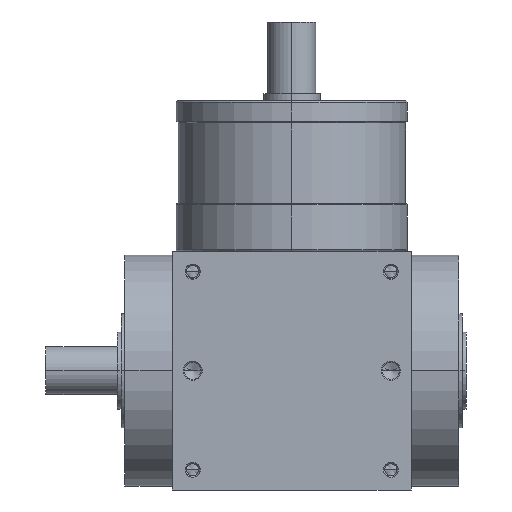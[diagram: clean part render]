
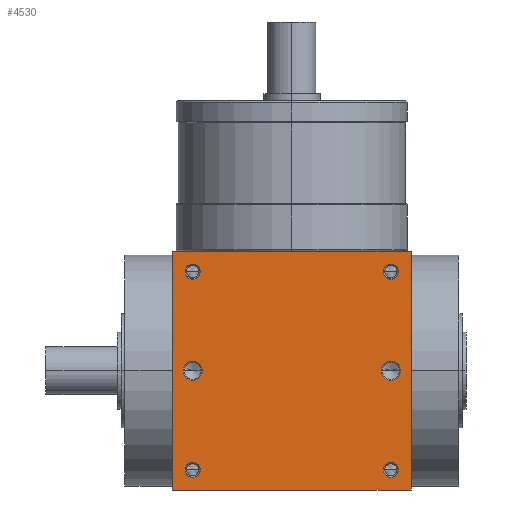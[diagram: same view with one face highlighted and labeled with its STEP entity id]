
A CAD part, front view. The second image highlights one B-rep face of the part: STEP entity #4530.
In plain terms, the highlighted planar face has unit normal (0, -1, 0).
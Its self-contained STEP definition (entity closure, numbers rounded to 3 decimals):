
#5=DIRECTION('',(1.,0.,0.));
#6=VECTOR('',#5,65.);
#7=CARTESIAN_POINT('',(-32.5,-32.5,-32.5));
#8=LINE('',#7,#6);
#155=DIRECTION('',(0.,0.,1.));
#156=VECTOR('',#155,65.);
#157=CARTESIAN_POINT('',(32.5,-32.5,-32.5));
#158=LINE('',#157,#156);
#209=DIRECTION('',(0.,0.,1.));
#210=VECTOR('',#209,65.);
#211=CARTESIAN_POINT('',(-32.5,-32.5,-32.5));
#212=LINE('',#211,#210);
#213=CARTESIAN_POINT('',(27.,-32.5,27.));
#214=DIRECTION('',(0.,1.,0.));
#215=DIRECTION('',(-1.,0.,0.));
#216=AXIS2_PLACEMENT_3D('',#213,#214,#215);
#218=CARTESIAN_POINT('',(27.,-32.5,27.));
#219=DIRECTION('',(0.,1.,0.));
#220=DIRECTION('',(1.,0.,0.));
#221=AXIS2_PLACEMENT_3D('',#218,#219,#220);
#223=CARTESIAN_POINT('',(-27.,-32.5,27.));
#224=DIRECTION('',(0.,1.,0.));
#225=DIRECTION('',(-1.,0.,0.));
#226=AXIS2_PLACEMENT_3D('',#223,#224,#225);
#228=CARTESIAN_POINT('',(-27.,-32.5,27.));
#229=DIRECTION('',(0.,1.,0.));
#230=DIRECTION('',(1.,0.,0.));
#231=AXIS2_PLACEMENT_3D('',#228,#229,#230);
#233=CARTESIAN_POINT('',(27.,-32.5,-27.));
#234=DIRECTION('',(0.,1.,0.));
#235=DIRECTION('',(-1.,0.,0.));
#236=AXIS2_PLACEMENT_3D('',#233,#234,#235);
#238=CARTESIAN_POINT('',(27.,-32.5,-27.));
#239=DIRECTION('',(0.,1.,0.));
#240=DIRECTION('',(1.,0.,0.));
#241=AXIS2_PLACEMENT_3D('',#238,#239,#240);
#243=CARTESIAN_POINT('',(-27.,-32.5,-27.));
#244=DIRECTION('',(0.,1.,0.));
#245=DIRECTION('',(-1.,0.,0.));
#246=AXIS2_PLACEMENT_3D('',#243,#244,#245);
#248=CARTESIAN_POINT('',(-27.,-32.5,-27.));
#249=DIRECTION('',(0.,1.,0.));
#250=DIRECTION('',(1.,0.,0.));
#251=AXIS2_PLACEMENT_3D('',#248,#249,#250);
#253=CARTESIAN_POINT('',(-27.,-32.5,0.));
#254=DIRECTION('',(0.,1.,0.));
#255=DIRECTION('',(1.,0.,0.));
#256=AXIS2_PLACEMENT_3D('',#253,#254,#255);
#258=CARTESIAN_POINT('',(-27.,-32.5,0.));
#259=DIRECTION('',(0.,1.,0.));
#260=DIRECTION('',(-1.,0.,0.));
#261=AXIS2_PLACEMENT_3D('',#258,#259,#260);
#263=CARTESIAN_POINT('',(27.,-32.5,0.));
#264=DIRECTION('',(0.,1.,0.));
#265=DIRECTION('',(1.,0.,0.));
#266=AXIS2_PLACEMENT_3D('',#263,#264,#265);
#268=CARTESIAN_POINT('',(27.,-32.5,0.));
#269=DIRECTION('',(0.,1.,0.));
#270=DIRECTION('',(-1.,0.,0.));
#271=AXIS2_PLACEMENT_3D('',#268,#269,#270);
#285=DIRECTION('',(1.,0.,0.));
#286=VECTOR('',#285,65.);
#287=CARTESIAN_POINT('',(-32.5,-32.5,32.5));
#288=LINE('',#287,#286);
#3614=CARTESIAN_POINT('',(-32.5,-32.5,-32.5));
#3616=VERTEX_POINT('',#3614);
#3617=CARTESIAN_POINT('',(32.5,-32.5,-32.5));
#3618=VERTEX_POINT('',#3617);
#3622=CARTESIAN_POINT('',(-32.5,-32.5,32.5));
#3624=VERTEX_POINT('',#3622);
#3625=CARTESIAN_POINT('',(32.5,-32.5,32.5));
#3626=VERTEX_POINT('',#3625);
#3793=CARTESIAN_POINT('',(24.95,-32.5,27.));
#3794=CARTESIAN_POINT('',(29.05,-32.5,27.));
#3795=VERTEX_POINT('',#3793);
#3796=VERTEX_POINT('',#3794);
#3801=CARTESIAN_POINT('',(-29.05,-32.5,27.));
#3802=CARTESIAN_POINT('',(-24.95,-32.5,27.));
#3803=VERTEX_POINT('',#3801);
#3804=VERTEX_POINT('',#3802);
#3809=CARTESIAN_POINT('',(24.95,-32.5,-27.));
#3810=CARTESIAN_POINT('',(29.05,-32.5,-27.));
#3811=VERTEX_POINT('',#3809);
#3812=VERTEX_POINT('',#3810);
#3817=CARTESIAN_POINT('',(-29.05,-32.5,-27.));
#3818=CARTESIAN_POINT('',(-24.95,-32.5,-27.));
#3819=VERTEX_POINT('',#3817);
#3820=VERTEX_POINT('',#3818);
#4159=CARTESIAN_POINT('',(-24.4,-32.5,0.));
#4160=CARTESIAN_POINT('',(-29.6,-32.5,0.));
#4161=VERTEX_POINT('',#4159);
#4162=VERTEX_POINT('',#4160);
#4167=CARTESIAN_POINT('',(29.6,-32.5,0.));
#4168=CARTESIAN_POINT('',(24.4,-32.5,0.));
#4169=VERTEX_POINT('',#4167);
#4170=VERTEX_POINT('',#4168);
#4482=CARTESIAN_POINT('',(-32.5,-32.5,-32.5));
#4483=DIRECTION('',(0.,-1.,0.));
#4484=DIRECTION('',(1.,0.,0.));
#4485=AXIS2_PLACEMENT_3D('',#4482,#4483,#4484);
#4486=PLANE('',#4485);
#4487=ORIENTED_EDGE('',*,*,#4322,.F.);
#4488=ORIENTED_EDGE('',*,*,#4365,.T.);
#4490=ORIENTED_EDGE('',*,*,#4489,.T.);
#4491=ORIENTED_EDGE('',*,*,#4444,.F.);
#4492=EDGE_LOOP('',(#4487,#4488,#4490,#4491));
#4493=FACE_OUTER_BOUND('',#4492,.F.);
#4495=ORIENTED_EDGE('',*,*,#4494,.F.);
#4497=ORIENTED_EDGE('',*,*,#4496,.F.);
#4498=EDGE_LOOP('',(#4495,#4497));
#4499=FACE_BOUND('',#4498,.F.);
#4501=ORIENTED_EDGE('',*,*,#4500,.F.);
#4503=ORIENTED_EDGE('',*,*,#4502,.F.);
#4504=EDGE_LOOP('',(#4501,#4503));
#4505=FACE_BOUND('',#4504,.F.);
#4507=ORIENTED_EDGE('',*,*,#4506,.F.);
#4509=ORIENTED_EDGE('',*,*,#4508,.F.);
#4510=EDGE_LOOP('',(#4507,#4509));
#4511=FACE_BOUND('',#4510,.F.);
#4513=ORIENTED_EDGE('',*,*,#4512,.F.);
#4515=ORIENTED_EDGE('',*,*,#4514,.F.);
#4516=EDGE_LOOP('',(#4513,#4515));
#4517=FACE_BOUND('',#4516,.F.);
#4519=ORIENTED_EDGE('',*,*,#4518,.F.);
#4521=ORIENTED_EDGE('',*,*,#4520,.F.);
#4522=EDGE_LOOP('',(#4519,#4521));
#4523=FACE_BOUND('',#4522,.F.);
#4525=ORIENTED_EDGE('',*,*,#4524,.F.);
#4527=ORIENTED_EDGE('',*,*,#4526,.F.);
#4528=EDGE_LOOP('',(#4525,#4527));
#4529=FACE_BOUND('',#4528,.F.);
#4530=ADVANCED_FACE('',(#4493,#4499,#4505,#4511,#4517,#4523,#4529),#4486,.T.);
#217=CIRCLE('',#216,2.05);
#222=CIRCLE('',#221,2.05);
#227=CIRCLE('',#226,2.05);
#232=CIRCLE('',#231,2.05);
#237=CIRCLE('',#236,2.05);
#242=CIRCLE('',#241,2.05);
#247=CIRCLE('',#246,2.05);
#252=CIRCLE('',#251,2.05);
#257=CIRCLE('',#256,2.6);
#262=CIRCLE('',#261,2.6);
#267=CIRCLE('',#266,2.6);
#272=CIRCLE('',#271,2.6);
#4322=EDGE_CURVE('',#3616,#3618,#8,.T.);
#4365=EDGE_CURVE('',#3616,#3624,#212,.T.);
#4444=EDGE_CURVE('',#3618,#3626,#158,.T.);
#4489=EDGE_CURVE('',#3624,#3626,#288,.T.);
#4494=EDGE_CURVE('',#3795,#3796,#217,.T.);
#4496=EDGE_CURVE('',#3796,#3795,#222,.T.);
#4500=EDGE_CURVE('',#3803,#3804,#227,.T.);
#4502=EDGE_CURVE('',#3804,#3803,#232,.T.);
#4506=EDGE_CURVE('',#3811,#3812,#237,.T.);
#4508=EDGE_CURVE('',#3812,#3811,#242,.T.);
#4512=EDGE_CURVE('',#3819,#3820,#247,.T.);
#4514=EDGE_CURVE('',#3820,#3819,#252,.T.);
#4518=EDGE_CURVE('',#4161,#4162,#257,.T.);
#4520=EDGE_CURVE('',#4162,#4161,#262,.T.);
#4524=EDGE_CURVE('',#4169,#4170,#267,.T.);
#4526=EDGE_CURVE('',#4170,#4169,#272,.T.);
